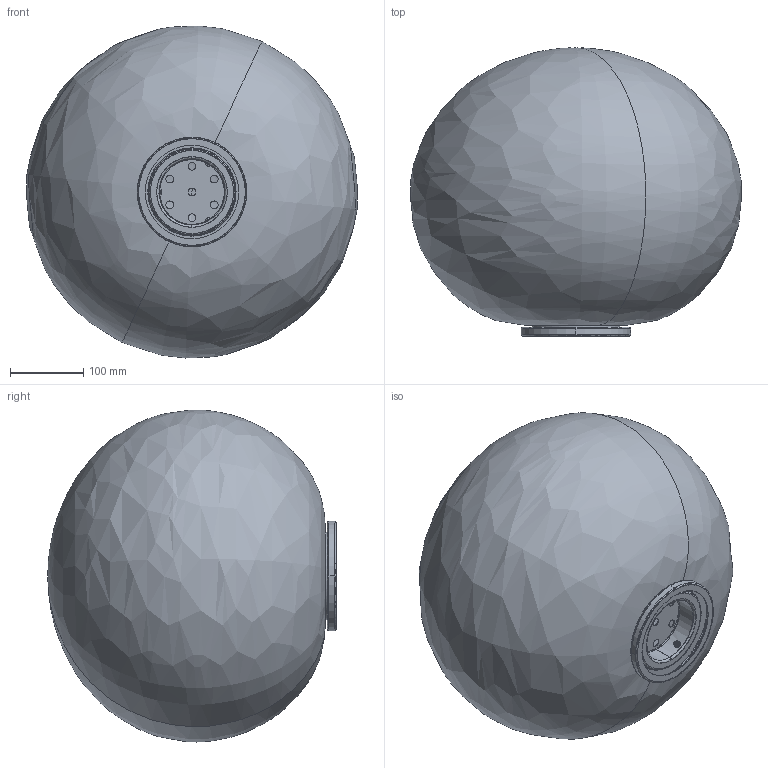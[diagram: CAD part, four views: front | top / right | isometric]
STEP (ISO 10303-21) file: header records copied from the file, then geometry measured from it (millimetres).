
FILE_DESCRIPTION (( 'STEP AP203' ), '1' );
FILE_NAME ('SPHERA_T3-45_STEP.STEP', '2016-01-22T13:54:20', ( 'admin' ), ( '' ), 'SwSTEP 2.0', 'SolidWorks 2015', '' );
FILE_SCHEMA (( 'CONFIG_CONTROL_DESIGN' ));
Length unit declared in the file: millimetre
Products named in the file (2): SPHERA_T3-45_STEP
Bounding box: 449.69 x 392.5 x 451.88 mm (x, y, z)
Volume: 2329224.2 mm3; surface area: 1214555.4 mm2
Topology: 2 solids, 2 shells, 132 faces, 308 edges, 189 vertices
Faces by surface type: bspline 62, cylinder 51, plane 19
Entity records: 11425 total; most frequent: CARTESIAN_POINT 8669, ORIENTED_EDGE 608, DIRECTION 455, EDGE_CURVE 304, AXIS2_PLACEMENT_3D 203, VERTEX_POINT 189, EDGE_LOOP 167, FACE_OUTER_BOUND 132
